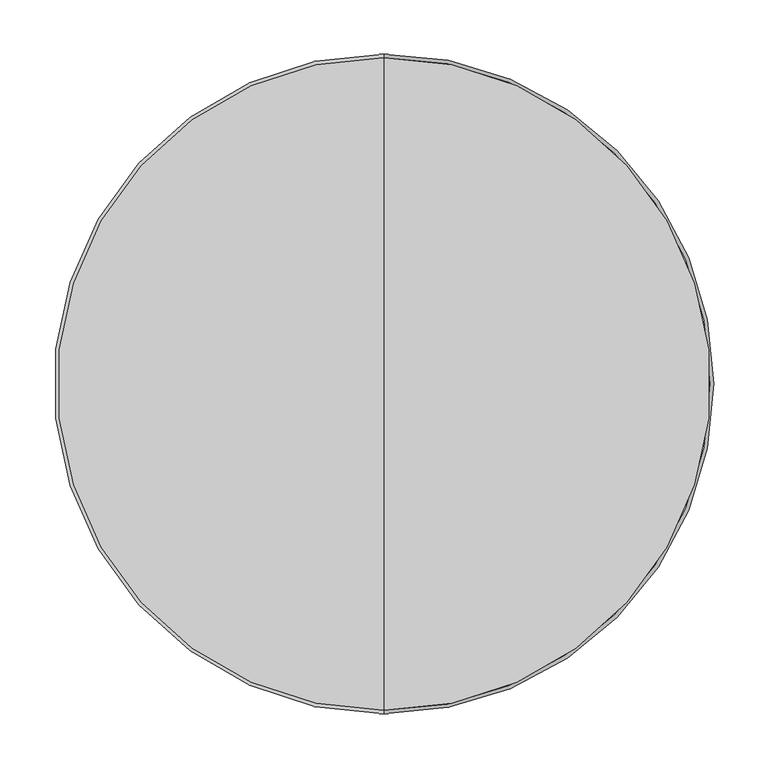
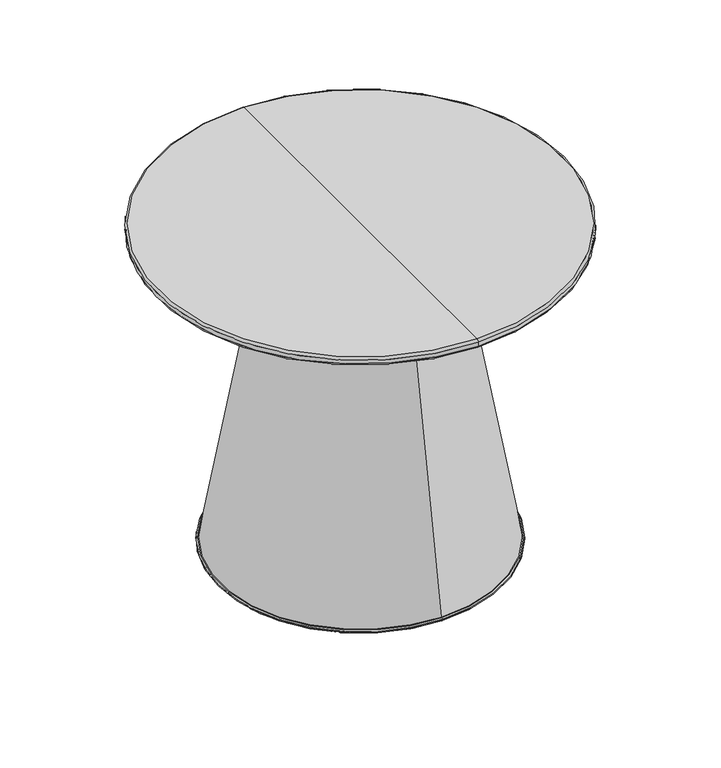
"""IFC4 building model written with IfcOpenShell, lengths in millimetres: furniture geometry, Stance_HC-Villa_Tables : VIT24D20-L-S."""

from ifc_helpers import new_model, si_unit, point, frame, frame_2d, origin, origin_with_axes, place, context, project, spatial, polyline, circle_curve, ellipse_curve, trimmed, segment, composite_curve, outline, extrude, source, transform, mapped, element, save
from ifc_brep_helpers import plane_surface, cylinder_surface, revolved_surface, advanced_brep


def furniture_844338b3(model_context):
    return source(origin(), model_context, "Body", "SolidModel", [
        advanced_brep(
        [(0.0, -125.7805636, 482.6), (0.0, 125.7805636, 482.6), (0.0, 209.2542601, 12.7402931), (0.0, -209.2542601, 12.7402931), (0.0, 0.0, 482.6), (0.0, 0.0, 12.7402931)],
        [
            (0, 1, circle_curve(frame((0.0, 0.0, 482.6), z_axis=(0.0, 0.0, -1.0), x_axis=(0.0, 1.0, 0.0)), 125.7805636)),
            (1, 2),
            (2, 3, circle_curve(frame((0.0, 0.0, 12.7402931), z_axis=(0.0, 0.0, 1.0), x_axis=(0.0, 1.0, 0.0)), 209.2542601)),
            (3, 0),
            (1, 0, circle_curve(frame((0.0, 0.0, 482.6), z_axis=(0.0, 0.0, -1.0), x_axis=(0.0, 1.0, 0.0)), 125.7805636)),
            (3, 2, circle_curve(frame((0.0, 0.0, 12.7402931), z_axis=(0.0, 0.0, 1.0), x_axis=(0.0, 1.0, 0.0)), 209.2542601)),
            (4, 1),
            (0, 4),
            (2, 5),
            (5, 3),
        ],
        [
            revolved_surface(polyline([(0.0, 209.2542601, 12.7402931), (0.0, 125.7805636, 482.6)]), (0.0, 0.0, 482.6), (0.0, 0.0, 1.0)),
            plane_surface(frame((0.0, 0.0, 482.6), z_axis=(0.0, 0.0, 1.0), x_axis=(0.0, 1.0, 0.0))),
            plane_surface(frame((0.0, 0.0, 12.7402931), z_axis=(0.0, 0.0, -1.0), x_axis=(0.0, 1.0, 0.0))),
        ],
        [
            (0, [[1, 2, 3, 4]]),
            (0, [[5, -4, 6, -2]]),
            (1, [[7, -1, 8]]),
            (1, [[-8, -5, -7]]),
            (2, [[-3, 9, 10]]),
            (2, [[-6, -10, -9]]),
        ],
    ),
        advanced_brep(
        [(0.0, -211.1240996, 7.9463926), (0.0, 211.1240996, 7.9463926), (0.0, 209.1775078, 7.9463926), (0.0, -209.1775078, 7.9463926), (0.0, -212.7493546, 9.5716476), (0.0, 212.7493546, 9.5716476), (0.0, -212.7493546, 11.1150382), (0.0, 212.7493546, 11.1150382), (0.0, -211.1240996, 12.7402931), (0.0, 211.1240996, 12.7402931), (0.0, -209.1775078, 12.7402931), (0.0, 209.1775078, 12.7402931)],
        [
            (0, 1, circle_curve(frame((0.0, 0.0, 7.9463926), z_axis=(0.0, 0.0, -1.0), x_axis=(0.0, 1.0, 0.0)), 211.1240996)),
            (1, 2),
            (2, 3, circle_curve(frame((0.0, 0.0, 7.9463926), z_axis=(0.0, 0.0, 1.0), x_axis=(0.0, 1.0, 0.0)), 209.1775078)),
            (3, 0),
            (1, 0, circle_curve(frame((0.0, 0.0, 7.9463926), z_axis=(0.0, 0.0, -1.0), x_axis=(0.0, 1.0, 0.0)), 211.1240996)),
            (3, 2, circle_curve(frame((0.0, 0.0, 7.9463926), z_axis=(0.0, 0.0, 1.0), x_axis=(0.0, 1.0, 0.0)), 209.1775078)),
            (4, 5, circle_curve(frame((0.0, 0.0, 9.5716476), z_axis=(0.0, 0.0, -1.0), x_axis=(0.0, 1.0, 0.0)), 212.7493546)),
            (5, 1),
            (0, 4),
            (5, 4, circle_curve(frame((0.0, 0.0, 9.5716476), z_axis=(0.0, 0.0, -1.0), x_axis=(0.0, 1.0, 0.0)), 212.7493546)),
            (6, 7, circle_curve(frame((0.0, 0.0, 11.1150382), z_axis=(0.0, 0.0, -1.0), x_axis=(0.0, 1.0, 0.0)), 212.7493546)),
            (7, 5),
            (4, 6),
            (7, 6, circle_curve(frame((0.0, 0.0, 11.1150382), z_axis=(0.0, 0.0, -1.0), x_axis=(0.0, 1.0, 0.0)), 212.7493546)),
            (8, 9, circle_curve(frame((0.0, 0.0, 12.7402931), z_axis=(0.0, 0.0, -1.0), x_axis=(0.0, 1.0, 0.0)), 211.1240996)),
            (9, 7),
            (6, 8),
            (9, 8, circle_curve(frame((0.0, 0.0, 12.7402931), z_axis=(0.0, 0.0, -1.0), x_axis=(0.0, 1.0, 0.0)), 211.1240996)),
            (10, 11, circle_curve(frame((0.0, 0.0, 12.7402931), z_axis=(0.0, 0.0, -1.0), x_axis=(0.0, 1.0, 0.0)), 209.1775078)),
            (11, 9),
            (8, 10),
            (11, 10, circle_curve(frame((0.0, 0.0, 12.7402931), z_axis=(0.0, 0.0, -1.0), x_axis=(0.0, 1.0, 0.0)), 209.1775078)),
            (2, 11),
            (10, 3),
        ],
        [
            plane_surface(frame((0.0, 0.0, 7.9463926), z_axis=(0.0, 0.0, -1.0), x_axis=(0.0, 1.0, 0.0))),
            revolved_surface(polyline([(0.0, 211.1240996, 7.9463926), (0.0, 212.7493546, 9.5716476)]), (0.0, 0.0, 0.0), (0.0, 0.0, 1.0)),
            cylinder_surface(frame((0.0, 0.0, 0.0), z_axis=(0.0, 0.0, 1.0), x_axis=(0.0, 1.0, 0.0)), 212.7493546),
            revolved_surface(polyline([(0.0, 212.7493546, 11.1150382), (0.0, 211.1240996, 12.7402931)]), (0.0, 0.0, 0.0), (0.0, 0.0, 1.0)),
            plane_surface(frame((0.0, 0.0, 12.7402931), z_axis=(0.0, 0.0, 1.0), x_axis=(0.0, 1.0, 0.0))),
            revolved_surface(polyline([(0.0, 209.1775078, 12.7402931), (0.0, 209.1775078, 7.9463926)]), (0.0, 0.0, 0.0), (0.0, 0.0, 1.0)),
        ],
        [
            (0, [[1, 2, 3, 4]]),
            (0, [[5, -4, 6, -2]]),
            (1, [[7, 8, -1, 9]]),
            (1, [[10, -9, -5, -8]]),
            (2, [[11, 12, -7, 13]]),
            (2, [[14, -13, -10, -12]]),
            (3, [[15, 16, -11, 17]]),
            (3, [[18, -17, -14, -16]]),
            (4, [[19, 20, -15, 21]]),
            (4, [[22, -21, -18, -20]]),
            (5, [[-3, 23, -19, 24]]),
            (5, [[-6, -24, -22, -23]]),
        ],
    ),
        extrude(outline(composite_curve([segment(trimmed(circle_curve(frame_2d((0.0, 177.7982666)), 20.6375), [point((-20.6375, 177.7982666))], [point((20.6375, 177.7982666))], False, "CARTESIAN"), True, "CONTINUOUS"), segment(trimmed(circle_curve(frame_2d((0.0, 177.7982666)), 20.6375), [point((20.6375, 177.7982666))], [point((-20.6375, 177.7982666))], False, "CARTESIAN"), True, "CONTINUOUS")], self_intersect=False)), origin_with_axes(), (0.0, 0.0, 1.0), 12.7),
        extrude(outline(composite_curve([segment(trimmed(circle_curve(frame_2d((-153.9778157, 88.8991333)), 20.6375), [point((-174.6153157, 88.8991333))], [point((-133.3403157, 88.8991333))], False, "CARTESIAN"), True, "CONTINUOUS"), segment(trimmed(circle_curve(frame_2d((-153.9778157, 88.8991333)), 20.6375), [point((-133.3403157, 88.8991333))], [point((-174.6153157, 88.8991333))], False, "CARTESIAN"), True, "CONTINUOUS")], self_intersect=False)), origin_with_axes(), (0.0, 0.0, 1.0), 12.7),
        extrude(outline(composite_curve([segment(trimmed(circle_curve(frame_2d((153.9778157, 88.8991333)), 20.6375), [point((133.3403157, 88.8991333))], [point((174.6153157, 88.8991333))], False, "CARTESIAN"), True, "CONTINUOUS"), segment(trimmed(circle_curve(frame_2d((153.9778157, 88.8991333)), 20.6375), [point((174.6153157, 88.8991333))], [point((133.3403157, 88.8991333))], False, "CARTESIAN"), True, "CONTINUOUS")], self_intersect=False)), origin_with_axes(), (0.0, 0.0, 1.0), 12.7),
        extrude(outline(composite_curve([segment(trimmed(circle_curve(frame_2d((0.0, -177.7982666)), 20.6375), [point((-20.6375, -177.7982666))], [point((20.6375, -177.7982666))], False, "CARTESIAN"), True, "CONTINUOUS"), segment(trimmed(circle_curve(frame_2d((0.0, -177.7982666)), 20.6375), [point((20.6375, -177.7982666))], [point((-20.6375, -177.7982666))], False, "CARTESIAN"), True, "CONTINUOUS")], self_intersect=False)), origin_with_axes(), (0.0, 0.0, 1.0), 12.7),
        extrude(outline(composite_curve([segment(trimmed(circle_curve(frame_2d((-153.9778157, -88.8991333)), 20.6375), [point((-174.6153157, -88.8991333))], [point((-133.3403157, -88.8991333))], False, "CARTESIAN"), True, "CONTINUOUS"), segment(trimmed(circle_curve(frame_2d((-153.9778157, -88.8991333)), 20.6375), [point((-133.3403157, -88.8991333))], [point((-174.6153157, -88.8991333))], False, "CARTESIAN"), True, "CONTINUOUS")], self_intersect=False)), origin_with_axes(), (0.0, 0.0, 1.0), 12.7),
        extrude(outline(composite_curve([segment(trimmed(circle_curve(frame_2d((153.9778157, -88.8991333)), 20.6375), [point((133.3403157, -88.8991333))], [point((174.6153157, -88.8991333))], False, "CARTESIAN"), True, "CONTINUOUS"), segment(trimmed(circle_curve(frame_2d((153.9778157, -88.8991333)), 20.6375), [point((174.6153157, -88.8991333))], [point((133.3403157, -88.8991333))], False, "CARTESIAN"), True, "CONTINUOUS")], self_intersect=False)), origin_with_axes(), (0.0, 0.0, 1.0), 12.7),
        advanced_brep(
        [(0.0, -304.8, 504.825), (0.0, 304.8, 504.825), (0.0, 304.8, 498.8066493), (0.0, -304.8, 498.8066493), (0.0, 0.0, 508.0), (0.0, 301.625, 508.0), (0.0, -301.625, 508.0), (0.0, -200.025, 484.0224), (0.0, 200.025, 484.0224), (0.0, 0.0, 484.0224), (0.0, -203.2, 487.1974), (0.0, 203.2, 487.1974), (0.0, -203.2, 495.6316493), (0.0, 203.2, 495.6316493), (0.0, -301.625, 495.6316493), (0.0, 301.625, 495.6316493)],
        [
            (0, 1, circle_curve(frame((0.0, 0.0, 504.825), z_axis=(0.0, 0.0, -1.0), x_axis=(0.0, 1.0, 0.0)), 304.8)),
            (1, 2),
            (2, 3, circle_curve(frame((0.0, 0.0, 498.8066493), z_axis=(0.0, 0.0, 1.0), x_axis=(0.0, 1.0, 0.0)), 304.8)),
            (3, 0),
            (1, 0, circle_curve(frame((0.0, 0.0, 504.825), z_axis=(0.0, 0.0, -1.0), x_axis=(0.0, 1.0, 0.0)), 304.8)),
            (3, 2, circle_curve(frame((0.0, 0.0, 498.8066493), z_axis=(0.0, 0.0, 1.0), x_axis=(0.0, 1.0, 0.0)), 304.8)),
            (4, 5),
            (5, 6, circle_curve(frame((0.0, 0.0, 508.0), z_axis=(0.0, 0.0, 1.0), x_axis=(0.0, 1.0, 0.0)), 301.625)),
            (6, 4),
            (6, 5, circle_curve(frame((0.0, 0.0, 508.0), z_axis=(0.0, 0.0, 1.0), x_axis=(0.0, 1.0, 0.0)), 301.625)),
            (7, 8, circle_curve(frame((0.0, 0.0, 484.0224), z_axis=(0.0, 0.0, -1.0), x_axis=(0.0, 1.0, 0.0)), 200.025)),
            (8, 9),
            (9, 7),
            (8, 7, circle_curve(frame((0.0, 0.0, 484.0224), z_axis=(0.0, 0.0, -1.0), x_axis=(0.0, 1.0, 0.0)), 200.025)),
            (5, 1, circle_curve(frame((0.0, 301.625, 504.825), z_axis=(-1.0, 0.0, 0.0), x_axis=(0.0, 1.0, 0.0)), 3.175)),
            (0, 6, circle_curve(frame((0.0, -301.625, 504.825), z_axis=(-1.0, 0.0, 0.0), x_axis=(0.0, -1.0, 0.0)), 3.175)),
            (10, 11, circle_curve(frame((0.0, 0.0, 487.1974), z_axis=(0.0, 0.0, -1.0), x_axis=(0.0, 1.0, 0.0)), 203.2)),
            (11, 8, circle_curve(frame((0.0, 200.025, 487.1974), z_axis=(-1.0, 0.0, 0.0), x_axis=(0.0, 1.0, 0.0)), 3.175)),
            (7, 10, circle_curve(frame((0.0, -200.025, 487.1974), z_axis=(-1.0, 0.0, 0.0), x_axis=(0.0, -1.0, 0.0)), 3.175)),
            (11, 10, circle_curve(frame((0.0, 0.0, 487.1974), z_axis=(0.0, 0.0, -1.0), x_axis=(0.0, 1.0, 0.0)), 203.2)),
            (12, 13, circle_curve(frame((0.0, 0.0, 495.6316493), z_axis=(0.0, 0.0, -1.0), x_axis=(0.0, 1.0, 0.0)), 203.2)),
            (13, 11),
            (10, 12),
            (13, 12, circle_curve(frame((0.0, 0.0, 495.6316493), z_axis=(0.0, 0.0, -1.0), x_axis=(0.0, 1.0, 0.0)), 203.2)),
            (14, 15, circle_curve(frame((0.0, 0.0, 495.6316493), z_axis=(0.0, 0.0, -1.0), x_axis=(0.0, 1.0, 0.0)), 301.625)),
            (15, 13),
            (12, 14),
            (15, 14, circle_curve(frame((0.0, 0.0, 495.6316493), z_axis=(0.0, 0.0, -1.0), x_axis=(0.0, 1.0, 0.0)), 301.625)),
            (2, 15, circle_curve(frame((0.0, 301.625, 498.8066493), z_axis=(-1.0, 0.0, 0.0), x_axis=(0.0, 1.0, 0.0)), 3.175)),
            (14, 3, circle_curve(frame((0.0, -301.625, 498.8066493), z_axis=(-1.0, 0.0, 0.0), x_axis=(0.0, -1.0, 0.0)), 3.175)),
        ],
        [
            cylinder_surface(frame((0.0, 0.0, 508.0), z_axis=(0.0, 0.0, 1.0), x_axis=(0.0, 1.0, 0.0)), 304.8),
            plane_surface(frame((0.0, 0.0, 508.0), z_axis=(0.0, 0.0, 1.0), x_axis=(0.0, 1.0, 0.0))),
            plane_surface(frame((0.0, 0.0, 484.0224), z_axis=(0.0, 0.0, -1.0), x_axis=(0.0, 1.0, 0.0))),
            revolved_surface(trimmed(ellipse_curve(frame((0.0, 301.625, 504.825), z_axis=(1.0, 0.0, 0.0), x_axis=(0.0, 1.0, 0.0)), 3.175, 3.175), [point((0.0, 304.8, 504.825))], [point((0.0, 301.625, 508.0))], True, "CARTESIAN"), (0.0, 0.0, 508.0), (0.0, 0.0, 1.0)),
            revolved_surface(trimmed(ellipse_curve(frame((0.0, 200.025, 487.1974), z_axis=(1.0, 0.0, 0.0), x_axis=(0.0, 1.0, 0.0)), 3.175, 3.175), [point((0.0, 200.025, 484.0224))], [point((0.0, 203.2, 487.1974))], True, "CARTESIAN"), (0.0, 0.0, 508.0), (0.0, 0.0, 1.0)),
            cylinder_surface(frame((0.0, 0.0, 508.0), z_axis=(0.0, 0.0, 1.0), x_axis=(0.0, 1.0, 0.0)), 203.2),
            plane_surface(frame((0.0, 0.0, 495.6316493), z_axis=(0.0, 0.0, -1.0), x_axis=(0.0, 1.0, 0.0))),
            revolved_surface(trimmed(ellipse_curve(frame((0.0, 301.625, 498.8066493), z_axis=(1.0, 0.0, 0.0), x_axis=(0.0, 1.0, 0.0)), 3.175, 3.175), [point((0.0, 301.625, 495.6316493))], [point((0.0, 304.8, 498.8066493))], True, "CARTESIAN"), (0.0, 0.0, 508.0), (0.0, 0.0, 1.0)),
        ],
        [
            (0, [[1, 2, 3, 4]]),
            (0, [[5, -4, 6, -2]]),
            (1, [[7, 8, 9]]),
            (1, [[-9, 10, -7]]),
            (2, [[11, 12, 13]]),
            (2, [[14, -13, -12]]),
            (3, [[-8, 15, -1, 16]]),
            (3, [[-10, -16, -5, -15]]),
            (4, [[17, 18, -11, 19]]),
            (4, [[20, -19, -14, -18]]),
            (5, [[21, 22, -17, 23]]),
            (5, [[24, -23, -20, -22]]),
            (6, [[25, 26, -21, 27]]),
            (6, [[28, -27, -24, -26]]),
            (7, [[-3, 29, -25, 30]]),
            (7, [[-6, -30, -28, -29]]),
        ],
    ),
    ])


if __name__ == "__main__":
    model = new_model("IFC4")
    model_context = context("Model", 3, world=origin())
    ifc_project = project(units=[si_unit("LENGTHUNIT", "METRE", prefix="MILLI")], contexts=[model_context])
    site = spatial("IfcSite", under=ifc_project)
    building = spatial("IfcBuilding", under=site)
    placement = place(None, origin())
    furniture_shape = furniture_844338b3(model_context)
    element("IfcFurniture", 1, ObjectType="Stance_HC-Villa_Tables : VIT24D20-L-S", at=placement, inside=building, context=model_context, shape_type="MappedRepresentation", body=[
        mapped(furniture_shape, transform((0.0, 0.0, 0.0), x_axis=(1.0, 0.0, 0.0), y_axis=(0.0, 1.0, 0.0), z_axis=(0.0, 0.0, 1.0))),
    ])
    save(model, "model.ifc")
